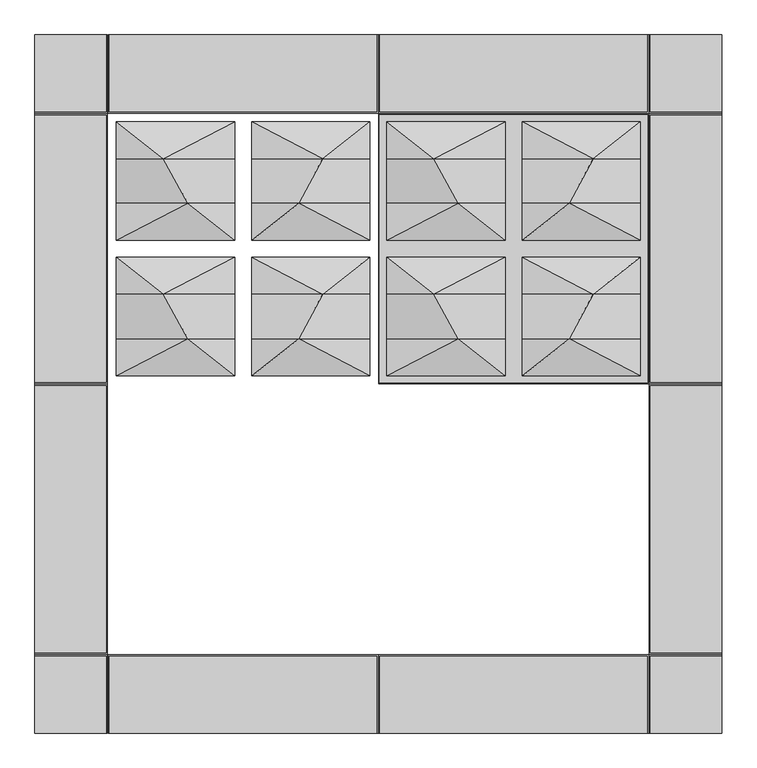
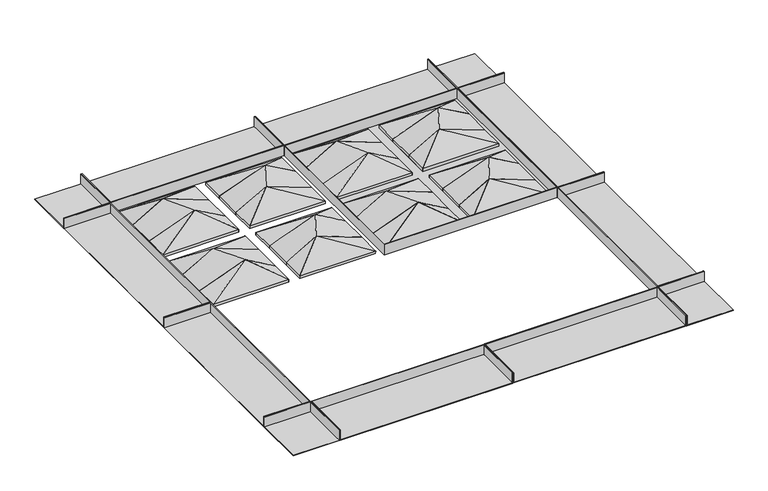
"""IFC4 building model written with IfcOpenShell, lengths in millimetres: proxy geometry, Maxxit_Highland-Ceiling_rev-01 : Maxxit_Highland-Ceiling_Quad."""

from ifc_helpers import new_model, si_unit, frame, origin, place, context, project, spatial, faceted_brep, source, transform, mapped, element, save
from ifc_brep_helpers import plane_surface, spline_surface, advanced_brep


def generic_models_ef213fe7(model_context):
    return source(origin(), model_context, "Body", "SolidModel", [
        faceted_brep([(164.30625, 1395.4125, 25.4), (0.79375, 1395.4125, 25.4), (0.79375, 1393.825, 25.4), (162.71875, 1393.825, 25.4), (162.71875, 788.9875, 25.4), (0.79375, 788.9875, 25.4), (0.79375, 787.4, 25.4), (164.30625, 787.4, 25.4), (164.30625, 1395.4125, -12.7), (164.30625, 787.4, -12.7), (0.79375, 787.4, -12.7), (0.79375, 1395.4125, -12.7), (0.79375, 788.9875, -11.1125), (0.79375, 1393.825, -11.1125), (162.71875, 788.9875, -11.1125), (162.71875, 1393.825, -11.1125)], [[[0, 1, 2, 3, 4, 5, 6, 7]], [[8, 9, 10, 11]], [[1, 0, 8, 11]], [[11, 10, 6, 5, 12, 13, 2, 1]], [[7, 6, 10, 9]], [[0, 7, 9, 8]], [[14, 15, 13, 12]], [[13, 15, 3, 2]], [[14, 12, 5, 4]], [[15, 14, 4, 3]]]),
        faceted_brep([(164.30625, 785.8125, 25.4), (0.79375, 785.8125, 25.4), (0.79375, 784.225, 25.4), (162.71875, 784.225, 25.4), (162.71875, 179.3875, 25.4), (0.79375, 179.3875, 25.4), (0.79375, 177.8, 25.4), (164.30625, 177.8, 25.4), (164.30625, 785.8125, -12.7), (164.30625, 177.8, -12.7), (0.79375, 177.8, -12.7), (0.79375, 785.8125, -12.7), (0.79375, 179.3875, -11.1125), (0.79375, 784.225, -11.1125), (162.71875, 179.3875, -11.1125), (162.71875, 784.225, -11.1125)], [[[0, 1, 2, 3, 4, 5, 6, 7]], [[8, 9, 10, 11]], [[1, 0, 8, 11]], [[11, 10, 6, 5, 12, 13, 2, 1]], [[7, 6, 10, 9]], [[0, 7, 9, 8]], [[14, 15, 13, 12]], [[13, 15, 3, 2]], [[14, 12, 5, 4]], [[15, 14, 4, 3]]]),
        faceted_brep([(1385.09375, 1395.4125, 25.4), (1385.09375, 787.4, 25.4), (1548.60625, 787.4, 25.4), (1548.60625, 788.9875, 25.4), (1386.68125, 788.9875, 25.4), (1386.68125, 1393.825, 25.4), (1548.60625, 1393.825, 25.4), (1548.60625, 1395.4125, 25.4), (1385.09375, 1395.4125, -12.7), (1548.60625, 1395.4125, -12.7), (1548.60625, 787.4, -12.7), (1385.09375, 787.4, -12.7), (1548.60625, 1393.825, -11.1125), (1548.60625, 788.9875, -11.1125), (1386.68125, 788.9875, -11.1125), (1386.68125, 1393.825, -11.1125)], [[[0, 1, 2, 3, 4, 5, 6, 7]], [[8, 9, 10, 11]], [[7, 9, 8, 0]], [[9, 7, 6, 12, 13, 3, 2, 10]], [[1, 11, 10, 2]], [[0, 8, 11, 1]], [[14, 13, 12, 15]], [[12, 6, 5, 15]], [[14, 4, 3, 13]], [[15, 5, 4, 14]]]),
        faceted_brep([(1385.09375, 785.8125, 25.4), (1385.09375, 177.8, 25.4), (1548.60625, 177.8, 25.4), (1548.60625, 179.3875, 25.4), (1386.68125, 179.3875, 25.4), (1386.68125, 784.225, 25.4), (1548.60625, 784.225, 25.4), (1548.60625, 785.8125, 25.4), (1385.09375, 785.8125, -12.7), (1548.60625, 785.8125, -12.7), (1548.60625, 177.8, -12.7), (1385.09375, 177.8, -12.7), (1548.60625, 784.225, -11.1125), (1548.60625, 179.3875, -11.1125), (1386.68125, 179.3875, -11.1125), (1386.68125, 784.225, -11.1125)], [[[0, 1, 2, 3, 4, 5, 6, 7]], [[8, 9, 10, 11]], [[7, 9, 8, 0]], [[9, 7, 6, 12, 13, 3, 2, 10]], [[1, 11, 10, 2]], [[0, 8, 11, 1]], [[14, 13, 12, 15]], [[12, 6, 5, 15]], [[14, 4, 3, 13]], [[15, 5, 4, 14]]]),
        faceted_brep([(1383.50625, 1397.0, 25.4), (1383.50625, 1573.2125, 25.4), (1381.91875, 1573.2125, 25.4), (1381.91875, 1398.5875, 25.4), (777.08125, 1398.5875, 25.4), (777.08125, 1573.2125, 25.4), (775.49375, 1573.2125, 25.4), (775.49375, 1397.0, 25.4), (1383.50625, 1397.0, -12.7), (775.49375, 1397.0, -12.7), (775.49375, 1573.2125, -12.7), (1383.50625, 1573.2125, -12.7), (777.08125, 1573.2125, -11.1125), (1381.91875, 1573.2125, -11.1125), (1381.91875, 1398.5875, -11.1125), (777.08125, 1398.5875, -11.1125)], [[[0, 1, 2, 3, 4, 5, 6, 7]], [[8, 9, 10, 11]], [[7, 9, 8, 0]], [[6, 10, 9, 7]], [[10, 6, 5, 12, 13, 2, 1, 11]], [[0, 8, 11, 1]], [[14, 13, 12, 15]], [[15, 4, 3, 14]], [[15, 12, 5, 4]], [[3, 2, 13, 14]]]),
        faceted_brep([(773.90625, 1397.0, 25.4), (773.90625, 1573.2125, 25.4), (772.31875, 1573.2125, 25.4), (772.31875, 1398.5875, 25.4), (167.48125, 1398.5875, 25.4), (167.48125, 1573.2125, 25.4), (165.89375, 1573.2125, 25.4), (165.89375, 1397.0, 25.4), (773.90625, 1397.0, -12.7), (165.89375, 1397.0, -12.7), (165.89375, 1573.2125, -12.7), (773.90625, 1573.2125, -12.7), (167.48125, 1573.2125, -11.1125), (772.31875, 1573.2125, -11.1125), (772.31875, 1398.5875, -11.1125), (167.48125, 1398.5875, -11.1125)], [[[0, 1, 2, 3, 4, 5, 6, 7]], [[8, 9, 10, 11]], [[7, 9, 8, 0]], [[6, 10, 9, 7]], [[10, 6, 5, 12, 13, 2, 1, 11]], [[0, 8, 11, 1]], [[14, 13, 12, 15]], [[15, 4, 3, 14]], [[15, 12, 5, 4]], [[3, 2, 13, 14]]]),
        faceted_brep([(1383.50625, 176.2125, 25.4), (775.49375, 176.2125, 25.4), (775.49375, 0.0, 25.4), (777.08125, 0.0, 25.4), (777.08125, 174.625, 25.4), (1381.91875, 174.625, 25.4), (1381.91875, 0.0, 25.4), (1383.50625, 0.0, 25.4), (1383.50625, 176.2125, -12.7), (1383.50625, 0.0, -12.7), (775.49375, 0.0, -12.7), (775.49375, 176.2125, -12.7), (1381.91875, 0.0, -11.1125), (777.08125, 0.0, -11.1125), (1381.91875, 174.625, -11.1125), (777.08125, 174.625, -11.1125)], [[[0, 1, 2, 3, 4, 5, 6, 7]], [[8, 9, 10, 11]], [[1, 0, 8, 11]], [[2, 1, 11, 10]], [[10, 9, 7, 6, 12, 13, 3, 2]], [[0, 7, 9, 8]], [[14, 15, 13, 12]], [[15, 14, 5, 4]], [[15, 4, 3, 13]], [[5, 14, 12, 6]]]),
        faceted_brep([(773.90625, 176.2125, 25.4), (165.89375, 176.2125, 25.4), (165.89375, 0.0, 25.4), (167.48125, 0.0, 25.4), (167.48125, 174.625, 25.4), (772.31875, 174.625, 25.4), (772.31875, 0.0, 25.4), (773.90625, 0.0, 25.4), (773.90625, 176.2125, -12.7), (773.90625, 0.0, -12.7), (165.89375, 0.0, -12.7), (165.89375, 176.2125, -12.7), (772.31875, 0.0, -11.1125), (167.48125, 0.0, -11.1125), (772.31875, 174.625, -11.1125), (167.48125, 174.625, -11.1125)], [[[0, 1, 2, 3, 4, 5, 6, 7]], [[8, 9, 10, 11]], [[1, 0, 8, 11]], [[2, 1, 11, 10]], [[10, 9, 7, 6, 12, 13, 3, 2]], [[0, 7, 9, 8]], [[14, 15, 13, 12]], [[15, 14, 5, 4]], [[15, 4, 3, 13]], [[5, 14, 12, 6]]]),
        faceted_brep([(1548.60625, 176.2125, 25.4), (1385.09375, 176.2125, 25.4), (1385.09375, 0.0, 25.4), (1386.68125, 0.0, 25.4), (1386.68125, 174.625, 25.4), (1548.60625, 174.625, 25.4), (1385.09375, 0.0, -12.7), (1385.09375, 176.2125, -12.7), (1548.60625, 176.2125, -12.7), (1548.60625, 0.0, -12.7), (1548.60625, 0.0, -11.1125), (1386.68125, 0.0, -11.1125), (1548.60625, 174.625, -11.1125), (1386.68125, 174.625, -11.1125)], [[[0, 1, 2, 3, 4, 5]], [[6, 7, 8, 9]], [[6, 9, 10, 11, 3, 2]], [[9, 8, 0, 5, 12, 10]], [[2, 1, 7, 6]], [[1, 0, 8, 7]], [[13, 11, 10, 12]], [[11, 13, 4, 3]], [[13, 12, 5, 4]]]),
        faceted_brep([(164.30625, 0.0, 25.4), (164.30625, 176.2125, 25.4), (0.79375, 176.2125, 25.4), (0.79375, 174.625, 25.4), (162.71875, 174.625, 25.4), (162.71875, 0.0, 25.4), (0.79375, 176.2125, -12.7), (164.30625, 176.2125, -12.7), (164.30625, 0.0, -12.7), (0.79375, 0.0, -12.7), (0.79375, 0.0, -11.1125), (0.79375, 174.625, -11.1125), (162.71875, 0.0, -11.1125), (162.71875, 174.625, -11.1125)], [[[0, 1, 2, 3, 4, 5]], [[6, 7, 8, 9]], [[6, 9, 10, 11, 3, 2]], [[9, 8, 0, 5, 12, 10]], [[1, 0, 8, 7]], [[2, 1, 7, 6]], [[13, 11, 10, 12]], [[11, 13, 4, 3]], [[13, 12, 5, 4]]]),
        faceted_brep([(164.30625, 1397.0, 25.4), (164.30625, 1573.2125, 25.4), (162.71875, 1573.2125, 25.4), (162.71875, 1398.5875, 25.4), (0.79375, 1398.5875, 25.4), (0.79375, 1397.0, 25.4), (164.30625, 1397.0, -12.7), (0.79375, 1397.0, -12.7), (0.79375, 1573.2125, -12.7), (164.30625, 1573.2125, -12.7), (0.79375, 1573.2125, -11.1125), (162.71875, 1573.2125, -11.1125), (0.79375, 1398.5875, -11.1125), (162.71875, 1398.5875, -11.1125)], [[[0, 1, 2, 3, 4, 5]], [[6, 7, 8, 9]], [[1, 0, 6, 9]], [[0, 5, 7, 6]], [[9, 8, 10, 11, 2, 1]], [[8, 7, 5, 4, 12, 10]], [[13, 11, 10, 12]], [[11, 13, 3, 2]], [[13, 12, 4, 3]]]),
        faceted_brep([(1385.09375, 1573.2125, 25.4), (1385.09375, 1397.0, 25.4), (1548.60625, 1397.0, 25.4), (1548.60625, 1398.5875, 25.4), (1386.68125, 1398.5875, 25.4), (1386.68125, 1573.2125, 25.4), (1385.09375, 1573.2125, -12.7), (1548.60625, 1573.2125, -12.7), (1548.60625, 1397.0, -12.7), (1385.09375, 1397.0, -12.7), (1386.68125, 1573.2125, -11.1125), (1548.60625, 1573.2125, -11.1125), (1548.60625, 1398.5875, -11.1125), (1386.68125, 1398.5875, -11.1125)], [[[0, 1, 2, 3, 4, 5]], [[6, 7, 8, 9]], [[7, 6, 0, 5, 10, 11]], [[1, 0, 6, 9]], [[2, 1, 9, 8]], [[8, 7, 11, 12, 3, 2]], [[13, 12, 11, 10]], [[12, 13, 4, 3]], [[13, 10, 5, 4]]]),
        faceted_brep([(1365.2000122, 1294.1417938, -1.5875), (1259.1483765, 1294.1417938, 58.8875), (1098.5, 1294.1417938, -1.5875), (1098.5, 1294.1417938, -11.1125), (1259.1483765, 1294.1417938, 49.3625), (1365.2000122, 1294.1417938, -11.1125), (1365.2000122, 1377.4125, -11.1125), (1365.2000122, 1377.4125, -1.5875), (1098.5, 1377.4125, -11.1125), (1098.5, 1377.4125, -1.5875)], [[[0, 1, 2, 3, 4, 5]], [[0, 5, 6, 7]], [[5, 4, 6]], [[4, 3, 8]], [[3, 2, 9, 8]], [[2, 1, 9]], [[1, 0, 7]], [[1, 4, 8, 9]], [[4, 1, 7, 6]]]),
        faceted_brep([(954.4483643, 1193.9832092, 58.8875), (1060.5, 1193.9832092, -1.5875), (1060.5, 1193.9832092, -11.1125), (954.4483643, 1193.9832092, 49.3625), (793.7999878, 1193.9832092, -11.1125), (793.7999878, 1193.9832092, -1.5875), (793.7999878, 1110.7124878, -1.5875), (793.7999878, 1110.7124878, -11.1125), (1060.5, 1110.7124878, -11.1125), (1060.5, 1110.7124878, -1.5875)], [[[0, 1, 2, 3, 4, 5]], [[0, 5, 6]], [[5, 4, 7, 6]], [[4, 3, 7]], [[3, 2, 8]], [[2, 1, 9, 8]], [[1, 0, 9]], [[3, 0, 6, 7]], [[0, 3, 8, 9]]]),
        faceted_brep([(1060.5, 1377.4125, -1.5875), (793.7999878, 1377.4125, -1.5875), (899.8691208, 1294.1280552, 58.8790431), (1060.5, 1377.4125, -11.1125), (793.7999878, 1377.4125, -11.1125), (899.8609554, 1294.1212455, 49.3774232)], [[[0, 1, 2]], [[1, 0, 3, 4]], [[4, 3, 5]], [[2, 5, 3, 0]], [[5, 2, 1, 4]]]),
        faceted_brep([(1060.5, 1110.6919547, -11.1125), (793.7999878, 1110.6919547, -11.1125), (954.3993714, 1193.9832092, 49.3774232), (1060.5261505, 1110.6919547, -1.5875), (793.7999878, 1110.6919547, -1.5875), (954.4231298, 1194.0030231, 58.8983724)], [[[0, 1, 2]], [[1, 0, 3, 4]], [[4, 3, 5]], [[5, 2, 1, 4]], [[2, 5, 3, 0]]]),
        faceted_brep([(793.7999878, 1294.1417938, -1.5875), (793.7999878, 1294.1417938, -11.1125), (899.8516235, 1294.1417938, 49.3625), (1060.5, 1294.1417938, -11.1125), (1060.5, 1294.1417938, -1.5875), (899.8516235, 1294.1417938, 58.8875), (793.7999878, 1377.4125, -1.5875), (793.7999878, 1377.4125, -11.1125), (1060.5, 1377.4125, -11.1125), (1060.5, 1377.4125, -1.5875)], [[[0, 1, 2, 3, 4, 5]], [[1, 0, 6, 7]], [[2, 1, 7]], [[3, 2, 8]], [[4, 3, 8, 9]], [[5, 4, 9]], [[0, 5, 6]], [[2, 5, 9, 8]], [[5, 2, 7, 6]]]),
        faceted_brep([(1365.2000122, 1377.4125, -1.5875), (1098.5, 1377.4125, -1.5875), (1259.1390446, 1294.1212455, 58.8839871), (1365.2000122, 1377.4125, -11.1125), (1098.5, 1377.4125, -11.1125), (1259.1308783, 1294.1280545, 49.3724781)], [[[0, 1, 2]], [[1, 0, 3, 4]], [[4, 3, 5]], [[5, 2, 1, 4]], [[2, 5, 3, 0]]]),
        faceted_brep([(1365.2000122, 1110.6919547, -11.1125), (1098.5, 1110.6919547, -11.1125), (1204.5768677, 1194.0030211, 49.3918114), (1365.2396132, 1110.6919547, -1.5875), (1098.5, 1110.6919547, -1.5875), (1204.6006286, 1193.9832092, 58.8839871)], [[[0, 1, 2]], [[1, 0, 3, 4]], [[4, 3, 5]], [[2, 5, 3, 0]], [[5, 2, 1, 4]]]),
        faceted_brep([(1204.5516357, 1193.9832092, 58.8875), (1365.2000122, 1193.9832092, -1.5875), (1365.2000122, 1193.9832092, -11.1125), (1204.5516357, 1193.9832092, 49.3625), (1098.5, 1193.9832092, -11.1125), (1098.5, 1193.9832092, -1.5875), (1365.2000122, 1110.7124878, -1.5875), (1365.2000122, 1110.7124878, -11.1125), (1098.5, 1110.7124878, -11.1125), (1098.5, 1110.7124878, -1.5875)], [[[0, 1, 2, 3, 4, 5]], [[1, 0, 6]], [[2, 1, 6, 7]], [[3, 2, 7]], [[4, 3, 8]], [[5, 4, 8, 9]], [[0, 5, 9]], [[0, 3, 7, 6]], [[3, 0, 9, 8]]]),
        advanced_brep(
        [(793.7999878, 888.6707214, -1.5875), (793.7999878, 888.6707214, -11.1125), (954.4483643, 888.6707214, 49.3625), (1060.5, 888.6707214, -11.1125), (1060.5, 888.6707214, -1.5875), (954.4483643, 888.6707214, 58.8875), (793.7999878, 988.829306, -1.5875), (899.8516235, 988.829306, 58.8875), (1060.5, 988.829306, -1.5875), (1060.5, 988.829306, -11.1125), (899.8516235, 988.829306, 49.3625), (793.7999878, 988.829306, -11.1125)],
        [
            (0, 1),
            (1, 2),
            (2, 3),
            (3, 4),
            (4, 5),
            (5, 0),
            (6, 7),
            (7, 8),
            (8, 9),
            (9, 10),
            (10, 11),
            (11, 6),
            (11, 1),
            (0, 6),
            (10, 2),
            (9, 3),
            (8, 4),
            (7, 5),
        ],
        [
            plane_surface(frame((936.2494507, 888.6707214, 13.8083333), z_axis=(0.0, -1.0, 0.0), x_axis=(0.9358843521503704, 0.0, 0.35230736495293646))),
            plane_surface(frame((918.0505371, 988.829306, 13.8083333), z_axis=(0.0, 1.0, 0.0), x_axis=(0.9358843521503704, 0.0, 0.35230736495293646))),
            plane_surface(frame((793.7999878, 988.829306, -6.35), z_axis=(-1.0, 0.0, 0.0), x_axis=(0.0, 0.0, -1.0))),
            spline_surface(1, 1, [[(793.7999878, 988.829306, -11.1125), (793.7999878, 888.6707214, -11.1125)], [(899.8516235, 988.829306, 49.3625), (954.4483643, 888.6707214, 49.3625)]], [2, 2], [2, 2], [0.0, 1.0], [0.0, 1.0]),
            spline_surface(1, 1, [[(899.8516235, 988.829306, 49.3625), (954.4483643, 888.6707214, 49.3625)], [(1060.5, 988.829306, -11.1125), (1060.5, 888.6707214, -11.1125)]], [2, 2], [2, 2], [0.0, 1.0], [0.0, 1.0]),
            plane_surface(frame((1060.5, 988.829306, -6.35), z_axis=(1.0, 0.0, 0.0), x_axis=(0.0, 0.0, 1.0))),
            spline_surface(1, 1, [[(1060.5, 988.829306, -1.5875), (1060.5, 888.6707214, -1.5875)], [(899.8516235, 988.829306, 58.8875), (954.4483643, 888.6707214, 58.8875)]], [2, 2], [2, 2], [0.0, 1.0], [0.0, 1.0]),
            spline_surface(1, 1, [[(899.8516235, 988.829306, 58.8875), (954.4483643, 888.6707214, 58.8875)], [(793.7999878, 988.829306, -1.5875), (793.7999878, 888.6707214, -1.5875)]], [2, 2], [2, 2], [0.0, 1.0], [0.0, 1.0]),
        ],
        [
            (0, [[1, 2, 3, 4, 5, 6]]),
            (1, [[7, 8, 9, 10, 11, 12]]),
            (2, [[-12, 13, -1, 14]]),
            (3, [[-11, 15, -2, -13]]),
            (4, [[-10, 16, -3, -15]]),
            (5, [[-9, 17, -4, -16]]),
            (6, [[-8, 18, -5, -17]]),
            (7, [[-7, -14, -6, -18]]),
        ],
    ),
        advanced_brep(
        [(793.7999878, 1193.9832092, -1.5875), (793.7999878, 1193.9832092, -11.1125), (954.4483643, 1193.9832092, 49.3625), (1060.5, 1193.9832092, -11.1125), (1060.5, 1193.9832092, -1.5875), (954.4483643, 1193.9832092, 58.8875), (793.7999878, 1294.1417938, -1.5875), (899.8516235, 1294.1417938, 58.8875), (1060.5, 1294.1417938, -1.5875), (1060.5, 1294.1417938, -11.1125), (899.8516235, 1294.1417938, 49.3625), (793.7999878, 1294.1417938, -11.1125)],
        [
            (0, 1),
            (1, 2),
            (2, 3),
            (3, 4),
            (4, 5),
            (5, 0),
            (6, 7),
            (7, 8),
            (8, 9),
            (9, 10),
            (10, 11),
            (11, 6),
            (11, 1),
            (0, 6),
            (10, 2),
            (9, 3),
            (8, 4),
            (7, 5),
        ],
        [
            plane_surface(frame((936.2494507, 1193.9832092, 13.8083333), z_axis=(0.0, -1.0, 0.0), x_axis=(0.9358843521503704, 0.0, 0.35230736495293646))),
            plane_surface(frame((918.0505371, 1294.1417938, 13.8083333), z_axis=(0.0, 1.0, 0.0), x_axis=(0.9358843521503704, 0.0, 0.35230736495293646))),
            plane_surface(frame((793.7999878, 1294.1417938, -6.35), z_axis=(-1.0, 0.0, 0.0), x_axis=(0.0, 0.0, -1.0))),
            spline_surface(1, 1, [[(793.7999878, 1294.1417938, -11.1125), (793.7999878, 1193.9832092, -11.1125)], [(899.8516235, 1294.1417938, 49.3625), (954.4483643, 1193.9832092, 49.3625)]], [2, 2], [2, 2], [0.0, 1.0], [0.0, 1.0]),
            spline_surface(1, 1, [[(899.8516235, 1294.1417938, 49.3625), (954.4483643, 1193.9832092, 49.3625)], [(1060.5, 1294.1417938, -11.1125), (1060.5, 1193.9832092, -11.1125)]], [2, 2], [2, 2], [0.0, 1.0], [0.0, 1.0]),
            plane_surface(frame((1060.5, 1294.1417938, -6.35), z_axis=(1.0, 0.0, 0.0), x_axis=(0.0, 0.0, 1.0))),
            spline_surface(1, 1, [[(1060.5, 1294.1417938, -1.5875), (1060.5, 1193.9832092, -1.5875)], [(899.8516235, 1294.1417938, 58.8875), (954.4483643, 1193.9832092, 58.8875)]], [2, 2], [2, 2], [0.0, 1.0], [0.0, 1.0]),
            spline_surface(1, 1, [[(899.8516235, 1294.1417938, 58.8875), (954.4483643, 1193.9832092, 58.8875)], [(793.7999878, 1294.1417938, -1.5875), (793.7999878, 1193.9832092, -1.5875)]], [2, 2], [2, 2], [0.0, 1.0], [0.0, 1.0]),
        ],
        [
            (0, [[1, 2, 3, 4, 5, 6]]),
            (1, [[7, 8, 9, 10, 11, 12]]),
            (2, [[-12, 13, -1, 14]]),
            (3, [[-11, 15, -2, -13]]),
            (4, [[-10, 16, -3, -15]]),
            (5, [[-9, 17, -4, -16]]),
            (6, [[-8, 18, -5, -17]]),
            (7, [[-7, -14, -6, -18]]),
        ],
    ),
        advanced_brep(
        [(1365.2000122, 1193.9832092, -1.5875), (1204.5516357, 1193.9832092, 58.8875), (1098.5, 1193.9832092, -1.5875), (1098.5, 1193.9832092, -11.1125), (1204.5516357, 1193.9832092, 49.3625), (1365.2000122, 1193.9832092, -11.1125), (1365.2000122, 1294.1417938, -1.5875), (1365.2000122, 1294.1417938, -11.1125), (1259.1483765, 1294.1417938, 49.3625), (1098.5, 1294.1417938, -11.1125), (1098.5, 1294.1417938, -1.5875), (1259.1483765, 1294.1417938, 58.8875)],
        [
            (0, 1),
            (1, 2),
            (2, 3),
            (3, 4),
            (4, 5),
            (5, 0),
            (6, 7),
            (7, 8),
            (8, 9),
            (9, 10),
            (10, 11),
            (11, 6),
            (6, 0),
            (5, 7),
            (4, 8),
            (3, 9),
            (2, 10),
            (1, 11),
        ],
        [
            plane_surface(frame((1222.7505493, 1193.9832092, 13.8083333), z_axis=(0.0, -1.0, 0.0), x_axis=(0.0, 0.0, -1.0))),
            plane_surface(frame((1240.9494629, 1294.1417938, 13.8083333), z_axis=(0.0, 1.0, 0.0), x_axis=(0.0, 0.0, -1.0))),
            plane_surface(frame((1365.2000122, 1294.1417938, -6.35), z_axis=(1.0, 0.0, 0.0), x_axis=(0.0, 0.0, 1.0))),
            spline_surface(1, 1, [[(1259.1483765, 1294.1417938, 49.3625), (1204.5516357, 1193.9832092, 49.3625)], [(1365.2000122, 1294.1417938, -11.1125), (1365.2000122, 1193.9832092, -11.1125)]], [2, 2], [2, 2], [0.0, 1.0], [0.0, 1.0]),
            spline_surface(1, 1, [[(1098.5, 1294.1417938, -11.1125), (1098.5, 1193.9832092, -11.1125)], [(1259.1483765, 1294.1417938, 49.3625), (1204.5516357, 1193.9832092, 49.3625)]], [2, 2], [2, 2], [0.0, 1.0], [0.0, 1.0]),
            plane_surface(frame((1098.5, 1294.1417938, -6.35), z_axis=(-1.0, 0.0, 0.0), x_axis=(0.0, 0.0, -1.0))),
            spline_surface(1, 1, [[(1259.1483765, 1294.1417938, 58.8875), (1204.5516357, 1193.9832092, 58.8875)], [(1098.5, 1294.1417938, -1.5875), (1098.5, 1193.9832092, -1.5875)]], [2, 2], [2, 2], [0.0, 1.0], [0.0, 1.0]),
            spline_surface(1, 1, [[(1365.2000122, 1294.1417938, -1.5875), (1365.2000122, 1193.9832092, -1.5875)], [(1259.1483765, 1294.1417938, 58.8875), (1204.5516357, 1193.9832092, 58.8875)]], [2, 2], [2, 2], [0.0, 1.0], [0.0, 1.0]),
        ],
        [
            (0, [[1, 2, 3, 4, 5, 6]]),
            (1, [[7, 8, 9, 10, 11, 12]]),
            (2, [[-7, 13, -6, 14]]),
            (3, [[-8, -14, -5, 15]]),
            (4, [[-9, -15, -4, 16]]),
            (5, [[-10, -16, -3, 17]]),
            (6, [[-11, -17, -2, 18]]),
            (7, [[-12, -18, -1, -13]]),
        ],
    ),
        faceted_brep([(954.4483643, 888.6707214, 58.8875), (1060.5, 888.6707214, -1.5875), (1060.5, 888.6707214, -11.1125), (954.4483643, 888.6707214, 49.3625), (793.7999878, 888.6707214, -11.1125), (793.7999878, 888.6707214, -1.5875), (793.7999878, 805.4, -1.5875), (793.7999878, 805.4, -11.1125), (1060.5, 805.4, -11.1125), (1060.5, 805.4, -1.5875)], [[[0, 1, 2, 3, 4, 5]], [[0, 5, 6]], [[5, 4, 7, 6]], [[4, 3, 7]], [[3, 2, 8]], [[2, 1, 9, 8]], [[1, 0, 9]], [[3, 0, 6, 7]], [[0, 3, 8, 9]]]),
        faceted_brep([(793.7999878, 988.829306, -1.5875), (793.7999878, 988.829306, -11.1125), (899.8516235, 988.829306, 49.3625), (1060.5, 988.829306, -11.1125), (1060.5, 988.829306, -1.5875), (899.8516235, 988.829306, 58.8875), (793.7999878, 1072.1000122, -1.5875), (793.7999878, 1072.1000122, -11.1125), (1060.5, 1072.1000122, -11.1125), (1060.5, 1072.1000122, -1.5875)], [[[0, 1, 2, 3, 4, 5]], [[1, 0, 6, 7]], [[2, 1, 7]], [[3, 2, 8]], [[4, 3, 8, 9]], [[5, 4, 9]], [[0, 5, 6]], [[2, 5, 9, 8]], [[5, 2, 7, 6]]]),
        faceted_brep([(1060.5, 1072.1000122, -1.5875), (793.7999878, 1072.1000122, -1.5875), (899.8691208, 988.8155674, 58.8790431), (1060.5, 1072.1000122, -11.1125), (793.7999878, 1072.1000122, -11.1125), (899.8609554, 988.8087577, 49.3774232)], [[[0, 1, 2]], [[1, 0, 3, 4]], [[4, 3, 5]], [[2, 5, 3, 0]], [[5, 2, 1, 4]]]),
        faceted_brep([(1060.5, 805.3794669, -11.1125), (793.7999878, 805.3794669, -11.1125), (954.3993714, 888.6707214, 49.3774232), (1060.5261505, 805.3794669, -1.5875), (793.7999878, 805.3794669, -1.5875), (954.4231298, 888.6905353, 58.8983724)], [[[0, 1, 2]], [[1, 0, 3, 4]], [[4, 3, 5]], [[5, 2, 1, 4]], [[2, 5, 3, 0]]]),
        advanced_brep(
        [(1365.2000122, 888.6707214, -1.5875), (1204.5516357, 888.6707214, 58.8875), (1098.5, 888.6707214, -1.5875), (1098.5, 888.6707214, -11.1125), (1204.5516357, 888.6707214, 49.3625), (1365.2000122, 888.6707214, -11.1125), (1365.2000122, 988.829306, -1.5875), (1365.2000122, 988.829306, -11.1125), (1259.1483765, 988.829306, 49.3625), (1098.5, 988.829306, -11.1125), (1098.5, 988.829306, -1.5875), (1259.1483765, 988.829306, 58.8875)],
        [
            (0, 1),
            (1, 2),
            (2, 3),
            (3, 4),
            (4, 5),
            (5, 0),
            (6, 7),
            (7, 8),
            (8, 9),
            (9, 10),
            (10, 11),
            (11, 6),
            (6, 0),
            (5, 7),
            (4, 8),
            (3, 9),
            (2, 10),
            (1, 11),
        ],
        [
            plane_surface(frame((1222.7505493, 888.6707214, 13.8083333), z_axis=(0.0, -1.0, 0.0), x_axis=(0.0, 0.0, -1.0))),
            plane_surface(frame((1240.9494629, 988.829306, 13.8083333), z_axis=(0.0, 1.0, 0.0), x_axis=(0.0, 0.0, -1.0))),
            plane_surface(frame((1365.2000122, 988.829306, -6.35), z_axis=(1.0, 0.0, 0.0), x_axis=(0.0, 0.0, 1.0))),
            spline_surface(1, 1, [[(1259.1483765, 988.829306, 49.3625), (1204.5516357, 888.6707214, 49.3625)], [(1365.2000122, 988.829306, -11.1125), (1365.2000122, 888.6707214, -11.1125)]], [2, 2], [2, 2], [0.0, 1.0], [0.0, 1.0]),
            spline_surface(1, 1, [[(1098.5, 988.829306, -11.1125), (1098.5, 888.6707214, -11.1125)], [(1259.1483765, 988.829306, 49.3625), (1204.5516357, 888.6707214, 49.3625)]], [2, 2], [2, 2], [0.0, 1.0], [0.0, 1.0]),
            plane_surface(frame((1098.5, 988.829306, -6.35), z_axis=(-1.0, 0.0, 0.0), x_axis=(0.0, 0.0, -1.0))),
            spline_surface(1, 1, [[(1259.1483765, 988.829306, 58.8875), (1204.5516357, 888.6707214, 58.8875)], [(1098.5, 988.829306, -1.5875), (1098.5, 888.6707214, -1.5875)]], [2, 2], [2, 2], [0.0, 1.0], [0.0, 1.0]),
            spline_surface(1, 1, [[(1365.2000122, 988.829306, -1.5875), (1365.2000122, 888.6707214, -1.5875)], [(1259.1483765, 988.829306, 58.8875), (1204.5516357, 888.6707214, 58.8875)]], [2, 2], [2, 2], [0.0, 1.0], [0.0, 1.0]),
        ],
        [
            (0, [[1, 2, 3, 4, 5, 6]]),
            (1, [[7, 8, 9, 10, 11, 12]]),
            (2, [[-7, 13, -6, 14]]),
            (3, [[-8, -14, -5, 15]]),
            (4, [[-9, -15, -4, 16]]),
            (5, [[-10, -16, -3, 17]]),
            (6, [[-11, -17, -2, 18]]),
            (7, [[-12, -18, -1, -13]]),
        ],
    ),
        faceted_brep([(1365.2000122, 1072.1000122, -1.5875), (1098.5, 1072.1000122, -1.5875), (1259.1390446, 988.8087577, 58.8839871), (1365.2000122, 1072.1000122, -11.1125), (1098.5, 1072.1000122, -11.1125), (1259.1308783, 988.8155667, 49.3724781)], [[[0, 1, 2]], [[1, 0, 3, 4]], [[4, 3, 5]], [[5, 2, 1, 4]], [[2, 5, 3, 0]]]),
        faceted_brep([(1365.2000122, 805.3794669, -11.1125), (1098.5, 805.3794669, -11.1125), (1204.5768677, 888.6905333, 49.3918114), (1365.2396132, 805.3794669, -1.5875), (1098.5, 805.3794669, -1.5875), (1204.6006286, 888.6707214, 58.8839871)], [[[0, 1, 2]], [[1, 0, 3, 4]], [[4, 3, 5]], [[2, 5, 3, 0]], [[5, 2, 1, 4]]]),
        faceted_brep([(1204.5516357, 888.6707214, 58.8875), (1365.2000122, 888.6707214, -1.5875), (1365.2000122, 888.6707214, -11.1125), (1204.5516357, 888.6707214, 49.3625), (1098.5, 888.6707214, -11.1125), (1098.5, 888.6707214, -1.5875), (1365.2000122, 805.4, -1.5875), (1365.2000122, 805.4, -11.1125), (1098.5, 805.4, -11.1125), (1098.5, 805.4, -1.5875)], [[[0, 1, 2, 3, 4, 5]], [[1, 0, 6]], [[2, 1, 6, 7]], [[3, 2, 7]], [[4, 3, 8]], [[5, 4, 8, 9]], [[0, 5, 9]], [[0, 3, 7, 6]], [[3, 0, 9, 8]]]),
        faceted_brep([(1365.2000122, 988.829306, -1.5875), (1259.1483765, 988.829306, 58.8875), (1098.5, 988.829306, -1.5875), (1098.5, 988.829306, -11.1125), (1259.1483765, 988.829306, 49.3625), (1365.2000122, 988.829306, -11.1125), (1365.2000122, 1072.1000122, -11.1125), (1365.2000122, 1072.1000122, -1.5875), (1098.5, 1072.1000122, -11.1125), (1098.5, 1072.1000122, -1.5875)], [[[0, 1, 2, 3, 4, 5]], [[0, 5, 6, 7]], [[5, 4, 6]], [[4, 3, 8]], [[3, 2, 9, 8]], [[2, 1, 9]], [[1, 0, 7]], [[1, 4, 8, 9]], [[4, 1, 7, 6]]]),
        faceted_brep([(775.49375, 787.4, 25.4), (1383.50625, 787.4, 25.4), (1383.50625, 1395.4125, 25.4), (775.49375, 1395.4125, 25.4), (1381.91875, 788.9875, 25.4), (777.08125, 788.9875, 25.4), (777.08125, 1393.825, 25.4), (1381.91875, 1393.825, 25.4), (775.49375, 787.4, -12.7), (775.49375, 1395.4125, -12.7), (1383.50625, 1395.4125, -12.7), (1383.50625, 787.4, -12.7), (1365.2000122, 805.4, -12.7), (1365.2000122, 1072.1000122, -12.7), (1098.5, 1072.1000122, -12.7), (1098.5, 805.4, -12.7), (793.7999878, 805.4, -12.7), (1060.5, 805.4, -12.7), (1060.5, 1072.1000122, -12.7), (793.7999878, 1072.1000122, -12.7), (1365.2000122, 1377.4125, -12.7), (1098.5, 1377.4125, -12.7), (1098.5, 1110.7124878, -12.7), (1365.2000122, 1110.7124878, -12.7), (793.7999878, 1377.4125, -12.7), (793.7999878, 1110.7124878, -12.7), (1060.5, 1110.7124878, -12.7), (1060.5, 1377.4125, -12.7), (777.08125, 788.9875, -11.1125), (1381.91875, 788.9875, -11.1125), (1381.91875, 1393.825, -11.1125), (777.08125, 1393.825, -11.1125), (1365.2000122, 805.4, -11.1125), (1098.5, 805.4, -11.1125), (1098.5, 1072.1000122, -11.1125), (1365.2000122, 1072.1000122, -11.1125), (793.7999878, 805.4, -11.1125), (793.7999878, 1072.1000122, -11.1125), (1060.5, 1072.1000122, -11.1125), (1060.5, 805.4, -11.1125), (1365.2000122, 1377.4125, -11.1125), (1365.2000122, 1110.7124878, -11.1125), (1098.5, 1110.7124878, -11.1125), (1098.5, 1377.4125, -11.1125), (793.7999878, 1377.4125, -11.1125), (1060.5, 1377.4125, -11.1125), (1060.5, 1110.7124878, -11.1125), (793.7999878, 1110.7124878, -11.1125)], [[[0, 1, 2, 3], [4, 5, 6, 7]], [[8, 9, 10, 11], [12, 13, 14, 15], [16, 17, 18, 19], [20, 21, 22, 23], [24, 25, 26, 27]], [[1, 0, 8, 11]], [[2, 1, 11, 10]], [[3, 2, 10, 9]], [[0, 3, 9, 8]], [[28, 29, 30, 31], [32, 33, 34, 35], [36, 37, 38, 39], [40, 41, 42, 43], [44, 45, 46, 47]], [[29, 28, 5, 4]], [[30, 29, 4, 7]], [[31, 30, 7, 6]], [[28, 31, 6, 5]], [[12, 15, 33, 32]], [[15, 14, 34, 33]], [[14, 13, 35, 34]], [[13, 12, 32, 35]], [[16, 19, 37, 36]], [[19, 18, 38, 37]], [[18, 17, 39, 38]], [[17, 16, 36, 39]], [[20, 23, 41, 40]], [[23, 22, 42, 41]], [[22, 21, 43, 42]], [[21, 20, 40, 43]], [[24, 27, 45, 44]], [[27, 26, 46, 45]], [[26, 25, 47, 46]], [[25, 24, 44, 47]]]),
        faceted_brep([(755.6000122, 1294.1417938, -1.5875), (649.5483765, 1294.1417938, 58.8875), (488.9, 1294.1417938, -1.5875), (488.9, 1294.1417938, -11.1125), (649.5483765, 1294.1417938, 49.3625), (755.6000122, 1294.1417938, -11.1125), (755.6000122, 1377.4125, -11.1125), (755.6000122, 1377.4125, -1.5875), (488.9, 1377.4125, -11.1125), (488.9, 1377.4125, -1.5875)], [[[0, 1, 2, 3, 4, 5]], [[0, 5, 6, 7]], [[5, 4, 6]], [[4, 3, 8]], [[3, 2, 9, 8]], [[2, 1, 9]], [[1, 0, 7]], [[1, 4, 8, 9]], [[4, 1, 7, 6]]]),
        faceted_brep([(344.8483643, 1193.9832092, 58.8875), (450.9, 1193.9832092, -1.5875), (450.9, 1193.9832092, -11.1125), (344.8483643, 1193.9832092, 49.3625), (184.1999878, 1193.9832092, -11.1125), (184.1999878, 1193.9832092, -1.5875), (184.1999878, 1110.7124878, -1.5875), (184.1999878, 1110.7124878, -11.1125), (450.9, 1110.7124878, -11.1125), (450.9, 1110.7124878, -1.5875)], [[[0, 1, 2, 3, 4, 5]], [[0, 5, 6]], [[5, 4, 7, 6]], [[4, 3, 7]], [[3, 2, 8]], [[2, 1, 9, 8]], [[1, 0, 9]], [[3, 0, 6, 7]], [[0, 3, 8, 9]]]),
        faceted_brep([(450.9, 1377.4125, -1.5875), (184.1999878, 1377.4125, -1.5875), (290.2691208, 1294.1280552, 58.8790431), (450.9, 1377.4125, -11.1125), (184.1999878, 1377.4125, -11.1125), (290.2609554, 1294.1212455, 49.3774232)], [[[0, 1, 2]], [[1, 0, 3, 4]], [[4, 3, 5]], [[2, 5, 3, 0]], [[5, 2, 1, 4]]]),
        faceted_brep([(450.9, 1110.6919547, -11.1125), (184.1999878, 1110.6919547, -11.1125), (344.7993714, 1193.9832092, 49.3774232), (450.9261505, 1110.6919547, -1.5875), (184.1999878, 1110.6919547, -1.5875), (344.8231298, 1194.0030231, 58.8983724)], [[[0, 1, 2]], [[1, 0, 3, 4]], [[4, 3, 5]], [[5, 2, 1, 4]], [[2, 5, 3, 0]]]),
        faceted_brep([(184.1999878, 1294.1417938, -1.5875), (184.1999878, 1294.1417938, -11.1125), (290.2516235, 1294.1417938, 49.3625), (450.9, 1294.1417938, -11.1125), (450.9, 1294.1417938, -1.5875), (290.2516235, 1294.1417938, 58.8875), (184.1999878, 1377.4125, -1.5875), (184.1999878, 1377.4125, -11.1125), (450.9, 1377.4125, -11.1125), (450.9, 1377.4125, -1.5875)], [[[0, 1, 2, 3, 4, 5]], [[1, 0, 6, 7]], [[2, 1, 7]], [[3, 2, 8]], [[4, 3, 8, 9]], [[5, 4, 9]], [[0, 5, 6]], [[2, 5, 9, 8]], [[5, 2, 7, 6]]]),
        faceted_brep([(755.6000122, 1377.4125, -1.5875), (488.9, 1377.4125, -1.5875), (649.5390446, 1294.1212455, 58.8839871), (755.6000122, 1377.4125, -11.1125), (488.9, 1377.4125, -11.1125), (649.5308783, 1294.1280545, 49.3724781)], [[[0, 1, 2]], [[1, 0, 3, 4]], [[4, 3, 5]], [[5, 2, 1, 4]], [[2, 5, 3, 0]]]),
        faceted_brep([(755.6000122, 1110.6919547, -11.1125), (488.9, 1110.6919547, -11.1125), (594.9768677, 1194.0030211, 49.3918114), (755.6396132, 1110.6919547, -1.5875), (488.9, 1110.6919547, -1.5875), (595.0006286, 1193.9832092, 58.8839871)], [[[0, 1, 2]], [[1, 0, 3, 4]], [[4, 3, 5]], [[2, 5, 3, 0]], [[5, 2, 1, 4]]]),
        faceted_brep([(594.9516357, 1193.9832092, 58.8875), (755.6000122, 1193.9832092, -1.5875), (755.6000122, 1193.9832092, -11.1125), (594.9516357, 1193.9832092, 49.3625), (488.9, 1193.9832092, -11.1125), (488.9, 1193.9832092, -1.5875), (755.6000122, 1110.7124878, -1.5875), (755.6000122, 1110.7124878, -11.1125), (488.9, 1110.7124878, -11.1125), (488.9, 1110.7124878, -1.5875)], [[[0, 1, 2, 3, 4, 5]], [[1, 0, 6]], [[2, 1, 6, 7]], [[3, 2, 7]], [[4, 3, 8]], [[5, 4, 8, 9]], [[0, 5, 9]], [[0, 3, 7, 6]], [[3, 0, 9, 8]]]),
        advanced_brep(
        [(184.1999878, 888.6707214, -1.5875), (184.1999878, 888.6707214, -11.1125), (344.8483643, 888.6707214, 49.3625), (450.9, 888.6707214, -11.1125), (450.9, 888.6707214, -1.5875), (344.8483643, 888.6707214, 58.8875), (184.1999878, 988.829306, -1.5875), (290.2516235, 988.829306, 58.8875), (450.9, 988.829306, -1.5875), (450.9, 988.829306, -11.1125), (290.2516235, 988.829306, 49.3625), (184.1999878, 988.829306, -11.1125)],
        [
            (0, 1),
            (1, 2),
            (2, 3),
            (3, 4),
            (4, 5),
            (5, 0),
            (6, 7),
            (7, 8),
            (8, 9),
            (9, 10),
            (10, 11),
            (11, 6),
            (11, 1),
            (0, 6),
            (10, 2),
            (9, 3),
            (8, 4),
            (7, 5),
        ],
        [
            plane_surface(frame((326.6494507, 888.6707214, 13.8083333), z_axis=(0.0, -1.0, 0.0), x_axis=(0.9358843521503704, 0.0, 0.35230736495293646))),
            plane_surface(frame((308.4505371, 988.829306, 13.8083333), z_axis=(0.0, 1.0, 0.0), x_axis=(0.9358843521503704, 0.0, 0.35230736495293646))),
            plane_surface(frame((184.1999878, 988.829306, -6.35), z_axis=(-1.0, 0.0, 0.0), x_axis=(0.0, 0.0, -1.0))),
            spline_surface(1, 1, [[(184.1999878, 988.829306, -11.1125), (184.1999878, 888.6707214, -11.1125)], [(290.2516235, 988.829306, 49.3625), (344.8483643, 888.6707214, 49.3625)]], [2, 2], [2, 2], [0.0, 1.0], [0.0, 1.0]),
            spline_surface(1, 1, [[(290.2516235, 988.829306, 49.3625), (344.8483643, 888.6707214, 49.3625)], [(450.9, 988.829306, -11.1125), (450.9, 888.6707214, -11.1125)]], [2, 2], [2, 2], [0.0, 1.0], [0.0, 1.0]),
            plane_surface(frame((450.9, 988.829306, -6.35), z_axis=(1.0, 0.0, 0.0), x_axis=(0.0, 0.0, 1.0))),
            spline_surface(1, 1, [[(450.9, 988.829306, -1.5875), (450.9, 888.6707214, -1.5875)], [(290.2516235, 988.829306, 58.8875), (344.8483643, 888.6707214, 58.8875)]], [2, 2], [2, 2], [0.0, 1.0], [0.0, 1.0]),
            spline_surface(1, 1, [[(290.2516235, 988.829306, 58.8875), (344.8483643, 888.6707214, 58.8875)], [(184.1999878, 988.829306, -1.5875), (184.1999878, 888.6707214, -1.5875)]], [2, 2], [2, 2], [0.0, 1.0], [0.0, 1.0]),
        ],
        [
            (0, [[1, 2, 3, 4, 5, 6]]),
            (1, [[7, 8, 9, 10, 11, 12]]),
            (2, [[-12, 13, -1, 14]]),
            (3, [[-11, 15, -2, -13]]),
            (4, [[-10, 16, -3, -15]]),
            (5, [[-9, 17, -4, -16]]),
            (6, [[-8, 18, -5, -17]]),
            (7, [[-7, -14, -6, -18]]),
        ],
    ),
        advanced_brep(
        [(184.1999878, 1193.9832092, -1.5875), (184.1999878, 1193.9832092, -11.1125), (344.8483643, 1193.9832092, 49.3625), (450.9, 1193.9832092, -11.1125), (450.9, 1193.9832092, -1.5875), (344.8483643, 1193.9832092, 58.8875), (184.1999878, 1294.1417938, -1.5875), (290.2516235, 1294.1417938, 58.8875), (450.9, 1294.1417938, -1.5875), (450.9, 1294.1417938, -11.1125), (290.2516235, 1294.1417938, 49.3625), (184.1999878, 1294.1417938, -11.1125)],
        [
            (0, 1),
            (1, 2),
            (2, 3),
            (3, 4),
            (4, 5),
            (5, 0),
            (6, 7),
            (7, 8),
            (8, 9),
            (9, 10),
            (10, 11),
            (11, 6),
            (11, 1),
            (0, 6),
            (10, 2),
            (9, 3),
            (8, 4),
            (7, 5),
        ],
        [
            plane_surface(frame((326.6494507, 1193.9832092, 13.8083333), z_axis=(0.0, -1.0, 0.0), x_axis=(0.9358843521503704, 0.0, 0.35230736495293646))),
            plane_surface(frame((308.4505371, 1294.1417938, 13.8083333), z_axis=(0.0, 1.0, 0.0), x_axis=(0.9358843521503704, 0.0, 0.35230736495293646))),
            plane_surface(frame((184.1999878, 1294.1417938, -6.35), z_axis=(-1.0, 0.0, 0.0), x_axis=(0.0, 0.0, -1.0))),
            spline_surface(1, 1, [[(184.1999878, 1294.1417938, -11.1125), (184.1999878, 1193.9832092, -11.1125)], [(290.2516235, 1294.1417938, 49.3625), (344.8483643, 1193.9832092, 49.3625)]], [2, 2], [2, 2], [0.0, 1.0], [0.0, 1.0]),
            spline_surface(1, 1, [[(290.2516235, 1294.1417938, 49.3625), (344.8483643, 1193.9832092, 49.3625)], [(450.9, 1294.1417938, -11.1125), (450.9, 1193.9832092, -11.1125)]], [2, 2], [2, 2], [0.0, 1.0], [0.0, 1.0]),
            plane_surface(frame((450.9, 1294.1417938, -6.35), z_axis=(1.0, 0.0, 0.0), x_axis=(0.0, 0.0, 1.0))),
            spline_surface(1, 1, [[(450.9, 1294.1417938, -1.5875), (450.9, 1193.9832092, -1.5875)], [(290.2516235, 1294.1417938, 58.8875), (344.8483643, 1193.9832092, 58.8875)]], [2, 2], [2, 2], [0.0, 1.0], [0.0, 1.0]),
            spline_surface(1, 1, [[(290.2516235, 1294.1417938, 58.8875), (344.8483643, 1193.9832092, 58.8875)], [(184.1999878, 1294.1417938, -1.5875), (184.1999878, 1193.9832092, -1.5875)]], [2, 2], [2, 2], [0.0, 1.0], [0.0, 1.0]),
        ],
        [
            (0, [[1, 2, 3, 4, 5, 6]]),
            (1, [[7, 8, 9, 10, 11, 12]]),
            (2, [[-12, 13, -1, 14]]),
            (3, [[-11, 15, -2, -13]]),
            (4, [[-10, 16, -3, -15]]),
            (5, [[-9, 17, -4, -16]]),
            (6, [[-8, 18, -5, -17]]),
            (7, [[-7, -14, -6, -18]]),
        ],
    ),
        advanced_brep(
        [(755.6000122, 1193.9832092, -1.5875), (594.9516357, 1193.9832092, 58.8875), (488.9, 1193.9832092, -1.5875), (488.9, 1193.9832092, -11.1125), (594.9516357, 1193.9832092, 49.3625), (755.6000122, 1193.9832092, -11.1125), (755.6000122, 1294.1417938, -1.5875), (755.6000122, 1294.1417938, -11.1125), (649.5483765, 1294.1417938, 49.3625), (488.9, 1294.1417938, -11.1125), (488.9, 1294.1417938, -1.5875), (649.5483765, 1294.1417938, 58.8875)],
        [
            (0, 1),
            (1, 2),
            (2, 3),
            (3, 4),
            (4, 5),
            (5, 0),
            (6, 7),
            (7, 8),
            (8, 9),
            (9, 10),
            (10, 11),
            (11, 6),
            (6, 0),
            (5, 7),
            (4, 8),
            (3, 9),
            (2, 10),
            (1, 11),
        ],
        [
            plane_surface(frame((613.1505493, 1193.9832092, 13.8083333), z_axis=(0.0, -1.0, 0.0), x_axis=(0.0, 0.0, -1.0))),
            plane_surface(frame((631.3494629, 1294.1417938, 13.8083333), z_axis=(0.0, 1.0, 0.0), x_axis=(0.0, 0.0, -1.0))),
            plane_surface(frame((755.6000122, 1294.1417938, -6.35), z_axis=(1.0, 0.0, 0.0), x_axis=(0.0, 0.0, 1.0))),
            spline_surface(1, 1, [[(649.5483765, 1294.1417938, 49.3625), (594.9516357, 1193.9832092, 49.3625)], [(755.6000122, 1294.1417938, -11.1125), (755.6000122, 1193.9832092, -11.1125)]], [2, 2], [2, 2], [0.0, 1.0], [0.0, 1.0]),
            spline_surface(1, 1, [[(488.9, 1294.1417938, -11.1125), (488.9, 1193.9832092, -11.1125)], [(649.5483765, 1294.1417938, 49.3625), (594.9516357, 1193.9832092, 49.3625)]], [2, 2], [2, 2], [0.0, 1.0], [0.0, 1.0]),
            plane_surface(frame((488.9, 1294.1417938, -6.35), z_axis=(-1.0, 0.0, 0.0), x_axis=(0.0, 0.0, -1.0))),
            spline_surface(1, 1, [[(649.5483765, 1294.1417938, 58.8875), (594.9516357, 1193.9832092, 58.8875)], [(488.9, 1294.1417938, -1.5875), (488.9, 1193.9832092, -1.5875)]], [2, 2], [2, 2], [0.0, 1.0], [0.0, 1.0]),
            spline_surface(1, 1, [[(755.6000122, 1294.1417938, -1.5875), (755.6000122, 1193.9832092, -1.5875)], [(649.5483765, 1294.1417938, 58.8875), (594.9516357, 1193.9832092, 58.8875)]], [2, 2], [2, 2], [0.0, 1.0], [0.0, 1.0]),
        ],
        [
            (0, [[1, 2, 3, 4, 5, 6]]),
            (1, [[7, 8, 9, 10, 11, 12]]),
            (2, [[-7, 13, -6, 14]]),
            (3, [[-8, -14, -5, 15]]),
            (4, [[-9, -15, -4, 16]]),
            (5, [[-10, -16, -3, 17]]),
            (6, [[-11, -17, -2, 18]]),
            (7, [[-12, -18, -1, -13]]),
        ],
    ),
        faceted_brep([(344.8483643, 888.6707214, 58.8875), (450.9, 888.6707214, -1.5875), (450.9, 888.6707214, -11.1125), (344.8483643, 888.6707214, 49.3625), (184.1999878, 888.6707214, -11.1125), (184.1999878, 888.6707214, -1.5875), (184.1999878, 805.4, -1.5875), (184.1999878, 805.4, -11.1125), (450.9, 805.4, -11.1125), (450.9, 805.4, -1.5875)], [[[0, 1, 2, 3, 4, 5]], [[0, 5, 6]], [[5, 4, 7, 6]], [[4, 3, 7]], [[3, 2, 8]], [[2, 1, 9, 8]], [[1, 0, 9]], [[3, 0, 6, 7]], [[0, 3, 8, 9]]]),
        faceted_brep([(184.1999878, 988.829306, -1.5875), (184.1999878, 988.829306, -11.1125), (290.2516235, 988.829306, 49.3625), (450.9, 988.829306, -11.1125), (450.9, 988.829306, -1.5875), (290.2516235, 988.829306, 58.8875), (184.1999878, 1072.1000122, -1.5875), (184.1999878, 1072.1000122, -11.1125), (450.9, 1072.1000122, -11.1125), (450.9, 1072.1000122, -1.5875)], [[[0, 1, 2, 3, 4, 5]], [[1, 0, 6, 7]], [[2, 1, 7]], [[3, 2, 8]], [[4, 3, 8, 9]], [[5, 4, 9]], [[0, 5, 6]], [[2, 5, 9, 8]], [[5, 2, 7, 6]]]),
        faceted_brep([(450.9, 1072.1000122, -1.5875), (184.1999878, 1072.1000122, -1.5875), (290.2691208, 988.8155674, 58.8790431), (450.9, 1072.1000122, -11.1125), (184.1999878, 1072.1000122, -11.1125), (290.2609554, 988.8087577, 49.3774232)], [[[0, 1, 2]], [[1, 0, 3, 4]], [[4, 3, 5]], [[2, 5, 3, 0]], [[5, 2, 1, 4]]]),
        faceted_brep([(450.9, 805.3794669, -11.1125), (184.1999878, 805.3794669, -11.1125), (344.7993714, 888.6707214, 49.3774232), (450.9261505, 805.3794669, -1.5875), (184.1999878, 805.3794669, -1.5875), (344.8231298, 888.6905353, 58.8983724)], [[[0, 1, 2]], [[1, 0, 3, 4]], [[4, 3, 5]], [[5, 2, 1, 4]], [[2, 5, 3, 0]]]),
        advanced_brep(
        [(755.6000122, 888.6707214, -1.5875), (594.9516357, 888.6707214, 58.8875), (488.9, 888.6707214, -1.5875), (488.9, 888.6707214, -11.1125), (594.9516357, 888.6707214, 49.3625), (755.6000122, 888.6707214, -11.1125), (755.6000122, 988.829306, -1.5875), (755.6000122, 988.829306, -11.1125), (649.5483765, 988.829306, 49.3625), (488.9, 988.829306, -11.1125), (488.9, 988.829306, -1.5875), (649.5483765, 988.829306, 58.8875)],
        [
            (0, 1),
            (1, 2),
            (2, 3),
            (3, 4),
            (4, 5),
            (5, 0),
            (6, 7),
            (7, 8),
            (8, 9),
            (9, 10),
            (10, 11),
            (11, 6),
            (6, 0),
            (5, 7),
            (4, 8),
            (3, 9),
            (2, 10),
            (1, 11),
        ],
        [
            plane_surface(frame((613.1505493, 888.6707214, 13.8083333), z_axis=(0.0, -1.0, 0.0), x_axis=(0.0, 0.0, -1.0))),
            plane_surface(frame((631.3494629, 988.829306, 13.8083333), z_axis=(0.0, 1.0, 0.0), x_axis=(0.0, 0.0, -1.0))),
            plane_surface(frame((755.6000122, 988.829306, -6.35), z_axis=(1.0, 0.0, 0.0), x_axis=(0.0, 0.0, 1.0))),
            spline_surface(1, 1, [[(649.5483765, 988.829306, 49.3625), (594.9516357, 888.6707214, 49.3625)], [(755.6000122, 988.829306, -11.1125), (755.6000122, 888.6707214, -11.1125)]], [2, 2], [2, 2], [0.0, 1.0], [0.0, 1.0]),
            spline_surface(1, 1, [[(488.9, 988.829306, -11.1125), (488.9, 888.6707214, -11.1125)], [(649.5483765, 988.829306, 49.3625), (594.9516357, 888.6707214, 49.3625)]], [2, 2], [2, 2], [0.0, 1.0], [0.0, 1.0]),
            plane_surface(frame((488.9, 988.829306, -6.35), z_axis=(-1.0, 0.0, 0.0), x_axis=(0.0, 0.0, -1.0))),
            spline_surface(1, 1, [[(649.5483765, 988.829306, 58.8875), (594.9516357, 888.6707214, 58.8875)], [(488.9, 988.829306, -1.5875), (488.9, 888.6707214, -1.5875)]], [2, 2], [2, 2], [0.0, 1.0], [0.0, 1.0]),
            spline_surface(1, 1, [[(755.6000122, 988.829306, -1.5875), (755.6000122, 888.6707214, -1.5875)], [(649.5483765, 988.829306, 58.8875), (594.9516357, 888.6707214, 58.8875)]], [2, 2], [2, 2], [0.0, 1.0], [0.0, 1.0]),
        ],
        [
            (0, [[1, 2, 3, 4, 5, 6]]),
            (1, [[7, 8, 9, 10, 11, 12]]),
            (2, [[-7, 13, -6, 14]]),
            (3, [[-8, -14, -5, 15]]),
            (4, [[-9, -15, -4, 16]]),
            (5, [[-10, -16, -3, 17]]),
            (6, [[-11, -17, -2, 18]]),
            (7, [[-12, -18, -1, -13]]),
        ],
    ),
        faceted_brep([(755.6000122, 1072.1000122, -1.5875), (488.9, 1072.1000122, -1.5875), (649.5390446, 988.8087577, 58.8839871), (755.6000122, 1072.1000122, -11.1125), (488.9, 1072.1000122, -11.1125), (649.5308783, 988.8155667, 49.3724781)], [[[0, 1, 2]], [[1, 0, 3, 4]], [[4, 3, 5]], [[5, 2, 1, 4]], [[2, 5, 3, 0]]]),
        faceted_brep([(755.6000122, 805.3794669, -11.1125), (488.9, 805.3794669, -11.1125), (594.9768677, 888.6905333, 49.3918114), (755.6396132, 805.3794669, -1.5875), (488.9, 805.3794669, -1.5875), (595.0006286, 888.6707214, 58.8839871)], [[[0, 1, 2]], [[1, 0, 3, 4]], [[4, 3, 5]], [[2, 5, 3, 0]], [[5, 2, 1, 4]]]),
        faceted_brep([(594.9516357, 888.6707214, 58.8875), (755.6000122, 888.6707214, -1.5875), (755.6000122, 888.6707214, -11.1125), (594.9516357, 888.6707214, 49.3625), (488.9, 888.6707214, -11.1125), (488.9, 888.6707214, -1.5875), (755.6000122, 805.4, -1.5875), (755.6000122, 805.4, -11.1125), (488.9, 805.4, -11.1125), (488.9, 805.4, -1.5875)], [[[0, 1, 2, 3, 4, 5]], [[1, 0, 6]], [[2, 1, 6, 7]], [[3, 2, 7]], [[4, 3, 8]], [[5, 4, 8, 9]], [[0, 5, 9]], [[0, 3, 7, 6]], [[3, 0, 9, 8]]]),
        faceted_brep([(755.6000122, 988.829306, -1.5875), (649.5483765, 988.829306, 58.8875), (488.9, 988.829306, -1.5875), (488.9, 988.829306, -11.1125), (649.5483765, 988.829306, 49.3625), (755.6000122, 988.829306, -11.1125), (755.6000122, 1072.1000122, -11.1125), (755.6000122, 1072.1000122, -1.5875), (488.9, 1072.1000122, -11.1125), (488.9, 1072.1000122, -1.5875)], [[[0, 1, 2, 3, 4, 5]], [[0, 5, 6, 7]], [[5, 4, 6]], [[4, 3, 8]], [[3, 2, 9, 8]], [[2, 1, 9]], [[1, 0, 7]], [[1, 4, 8, 9]], [[4, 1, 7, 6]]]),
    ])


if __name__ == "__main__":
    model = new_model("IFC4")
    model_context = context("Model", 3, world=origin())
    ifc_project = project(units=[si_unit("LENGTHUNIT", "METRE", prefix="MILLI")], contexts=[model_context])
    site = spatial("IfcSite", under=ifc_project)
    building = spatial("IfcBuilding", under=site)
    placement = place(None, origin())
    generic_models_shape = generic_models_ef213fe7(model_context)
    element("IfcBuildingElementProxy", 1, Name="Maxxit_Highland-Ceiling_rev-01 : Maxxit_Highland-Ceiling_Quad", ObjectType="Maxxit_Highland-Ceiling_rev-01 : Maxxit_Highland-Ceiling_Quad", at=placement, inside=building, context=model_context, shape_type="MappedRepresentation", body=[
        mapped(generic_models_shape, transform((0.0, 0.0, 0.0), x_axis=(1.0, 0.0, 0.0), y_axis=(0.0, 1.0, 0.0), z_axis=(0.0, 0.0, 1.0))),
    ])
    save(model, "model.ifc")
